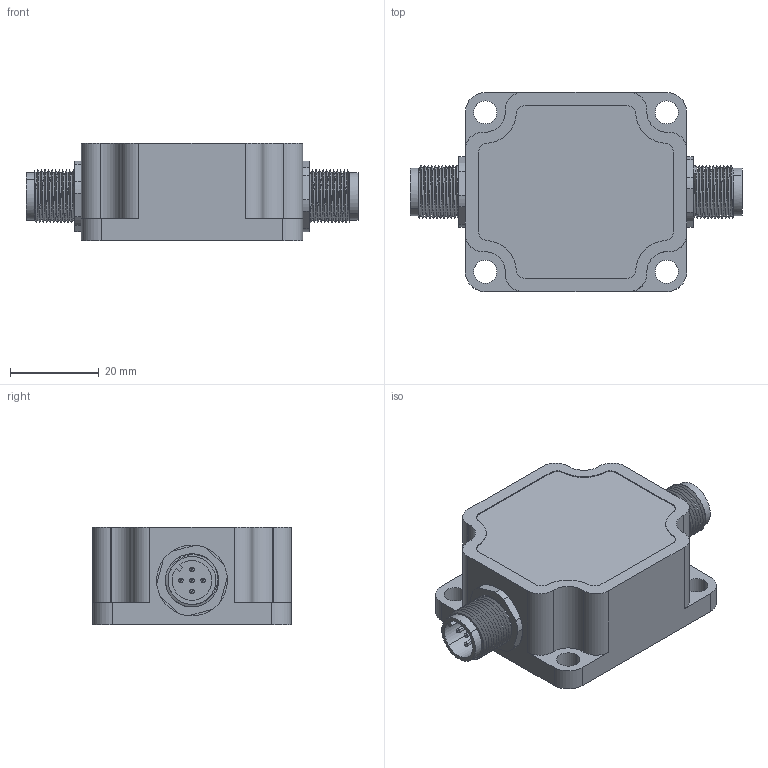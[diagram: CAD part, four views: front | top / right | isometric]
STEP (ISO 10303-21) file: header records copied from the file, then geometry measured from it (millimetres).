
FILE_DESCRIPTION (( 'STEP AP203' ), '1' );
FILE_NAME ('HI50RXX-3D-Ë«º½²å.STEP', '2023-10-18T01:07:39', ( '' ), ( '' ), 'SwSTEP 2.0', 'SolidWorks 2016', '' );
FILE_SCHEMA (( 'CONFIG_CONTROL_DESIGN' ));
Length unit declared in the file: millimetre
Products named in the file (1): HI50RXX-3D-邧瑤脣
Bounding box: 75 x 45 x 22 mm (x, y, z)
Volume: 16759.1 mm3; surface area: 19134 mm2
Topology: 4 solids, 4 shells, 352 faces, 908 edges, 581 vertices
Faces by surface type: cylinder 213, plane 91, cone 22, torus 20, bspline 6
Entity records: 14033 total; most frequent: CARTESIAN_POINT 5354, DIRECTION 1882, ORIENTED_EDGE 1788, EDGE_CURVE 894, AXIS2_PLACEMENT_3D 741, VERTEX_POINT 581, EDGE_LOOP 403, LINE 400
